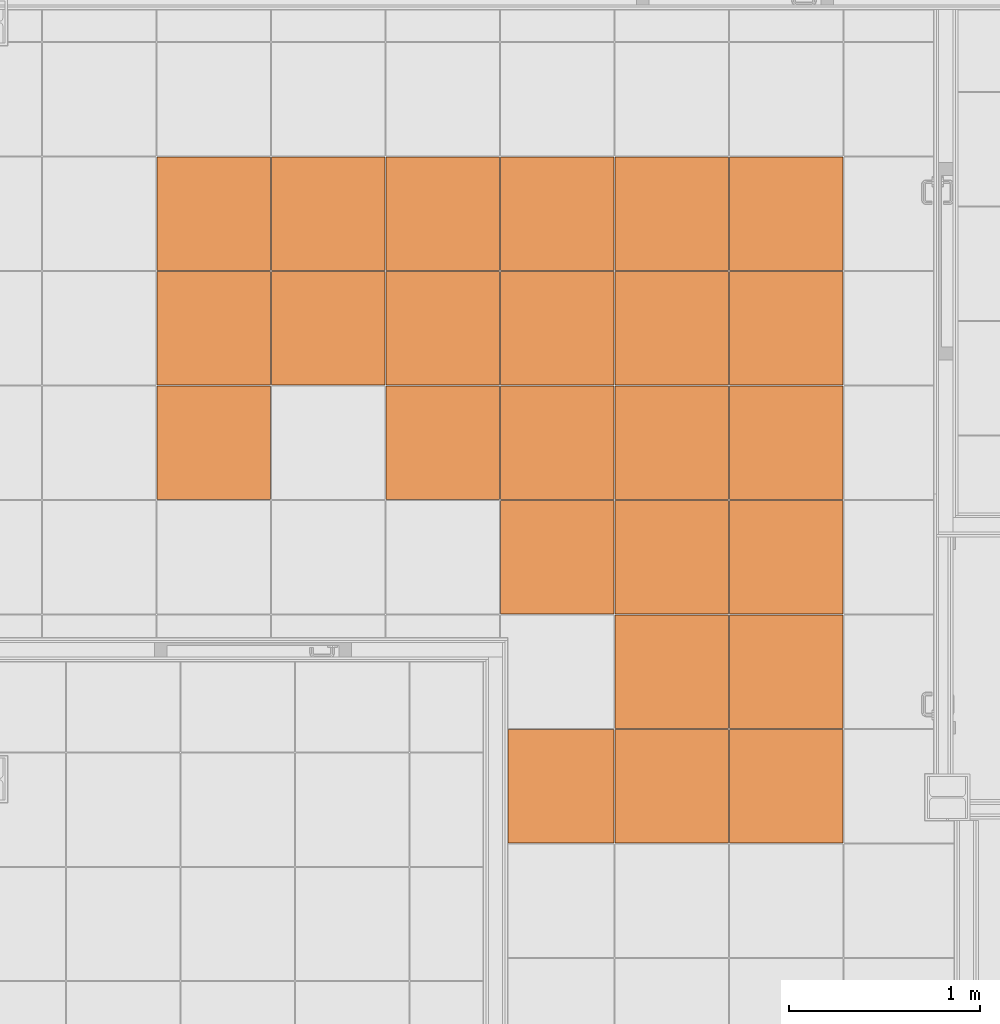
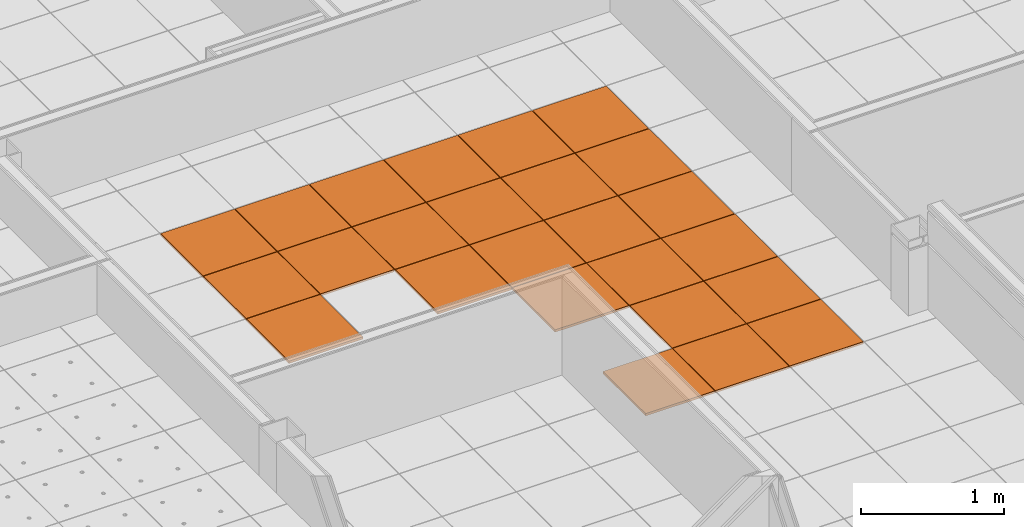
# One storey, part 281 of 338: 25 proxies, 1 element without a shape of its own.
"""IFC2X3 building model written with IfcOpenShell, lengths in millimetres."""

from ifc_helpers import new_model, entity, si_unit, converted_unit, derived_unit, money_unit, direction, frame, origin_with_axes, place, context, subcontext, project, spatial, faceted_brep, source, transform, mapped, material, type_object, type_shapes, element, aggregate, save


model = new_model("IFC2X3")

# Units and contexts
model_context = context("Model", 3, precision=0.01, world=origin_with_axes(), true_north=direction((0.0, 1.0)))
plan_context = context("Plan", 3, precision=0.01, world=origin_with_axes(), true_north=direction((0.0, 1.0)))
body_context = subcontext(model_context, "Body", "Model", "MODEL_VIEW")
ifc_project = project(units=[si_unit("LENGTHUNIT", "METRE", prefix="MILLI"), si_unit("AREAUNIT", "SQUARE_METRE"), si_unit("VOLUMEUNIT", "CUBIC_METRE"), converted_unit("PLANEANGLEUNIT", "DEGREE", entity("IfcPlaneAngleMeasure", 0.0174532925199), si_unit("PLANEANGLEUNIT", "RADIAN"), dimensions=[0, 0, 0, 0, 0, 0, 0]), money_unit("EUR"), converted_unit("TIMEUNIT", "Year", entity("IfcTimeMeasure", 31556926.0), si_unit("TIMEUNIT", "SECOND"), dimensions=[0, 0, 1, 0, 0, 0, 0]), si_unit("MASSUNIT", "GRAM", prefix="KILO"), si_unit("THERMODYNAMICTEMPERATUREUNIT", "DEGREE_CELSIUS"), si_unit("LUMINOUSINTENSITYUNIT", "LUMEN"), si_unit("ENERGYUNIT", "JOULE", prefix="MEGA"), derived_unit("THERMALCONDUCTANCEUNIT", [(si_unit("POWERUNIT", "WATT"), 1), (si_unit("LENGTHUNIT", "METRE"), -1), (si_unit("THERMODYNAMICTEMPERATUREUNIT", "KELVIN"), -1)]), derived_unit("SPECIFICHEATCAPACITYUNIT", [(si_unit("ENERGYUNIT", "JOULE"), 1), (si_unit("MASSUNIT", "GRAM", prefix="KILO"), -1), (si_unit("THERMODYNAMICTEMPERATUREUNIT", "KELVIN"), -1)]), derived_unit("MASSDENSITYUNIT", [(si_unit("MASSUNIT", "GRAM", prefix="KILO"), 1), (si_unit("VOLUMEUNIT", "CUBIC_METRE"), -1)])], contexts=[model_context, plan_context])

# Site, building, storey
site_placement = place(None, origin_with_axes())
site = spatial("IfcSite", under=ifc_project, at=site_placement, Name="Fortuinstraat Woensdrecht", CompositionType="ELEMENT")
building_placement = place(site_placement, origin_with_axes())
building = spatial("IfcBuilding", under=site, at=building_placement, Name="IKC Fortuna", CompositionType="ELEMENT")
storey_placement = place(building_placement, origin_with_axes())
storey = spatial("IfcBuildingStorey", under=building, at=storey_placement, Name="00 begane grond", CompositionType="ELEMENT", Elevation=0.0)

# Covering, proxies
covering_type = type_object("IfcCoveringType", Name="Curtain Wall Type", PredefinedType="CEILING")
covering_placement = place(storey_placement, frame((21169.4446171, 27661.0834994, 3010.0), z_axis=(0.0, 0.0, 1.0), x_axis=(1.0, 0.0, 0.0)))
covering = element("IfcCovering", 1, at=covering_placement, inside=storey, type_object=covering_type, Name="45_Plafondafwerking_P04", PredefinedType="CEILING")
ifc_material = material(Name="Gipsplaat")
building_element_proxy_type_1 = type_object("IfcBuildingElementProxyType", Name="Distinct Panel 600 x 600 x 20", PredefinedType="NOTDEFINED")
shared_shape_1 = source(origin_with_axes(), body_context, "Body", "Brep", [
    faceted_brep([(-2.49999999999, 2.5, -10.0), (-2.49999999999, 2.5, 10.0), (-597.5, 2.49999999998, 10.0), (-597.5, 2.49999999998, -10.0), (-2.50000000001, 597.5, -10.0), (-2.50000000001, 597.5, 10.0), (-597.5, 597.5, 10.0), (-597.5, 597.5, -10.0)], [[[0, 1, 2, 3]], [[4, 5, 1, 0]], [[1, 5, 6, 2]], [[3, 2, 6, 7]], [[0, 3, 7, 4]], [[7, 6, 5, 4]]]),
])
proxy_1_placement = place(covering_placement, frame((3600.0, -2400.0, 1.36335387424e-10), z_axis=(0.0, 0.0, 1.0), x_axis=(1.0, 0.0, 0.0)))
proxy_1 = element("IfcBuildingElementProxy", 2, at=proxy_1_placement, type_object=building_element_proxy_type_1, material=ifc_material, Name="__Panel-D", context=body_context, shape_type="MappedRepresentation", body=[
    mapped(shared_shape_1, transform((-300.0, 300.0, 0.0), x_axis=(-1.0, 0.0, 0.0), y_axis=(0.0, -1.0, 0.0), z_axis=(0.0, 0.0, 1.0))),
])
proxy_2_placement = place(covering_placement, frame((3600.0, -1800.0, 1.36335387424e-10), z_axis=(0.0, 0.0, 1.0), x_axis=(1.0, 0.0, 0.0)))
proxy_2 = element("IfcBuildingElementProxy", 3, at=proxy_2_placement, type_object=building_element_proxy_type_1, material=ifc_material, Name="__Panel-D", context=body_context, shape_type="MappedRepresentation", body=[
    mapped(shared_shape_1, transform((-300.0, 300.0, 0.0), x_axis=(-1.0, 0.0, 0.0), y_axis=(0.0, -1.0, 0.0), z_axis=(0.0, 0.0, 1.0))),
])
proxy_3_placement = place(covering_placement, frame((3600.0, -1200.0, 1.36335387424e-10), z_axis=(0.0, 0.0, 1.0), x_axis=(1.0, 0.0, 0.0)))
proxy_3 = element("IfcBuildingElementProxy", 4, at=proxy_3_placement, type_object=building_element_proxy_type_1, material=ifc_material, Name="__Panel-D", context=body_context, shape_type="MappedRepresentation", body=[
    mapped(shared_shape_1, transform((-300.0, 300.0, 0.0), x_axis=(-1.0, 0.0, 0.0), y_axis=(0.0, -1.0, 0.0), z_axis=(0.0, 0.0, 1.0))),
])
proxy_4_placement = place(covering_placement, frame((3600.0, -600.0, 1.36335387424e-10), z_axis=(0.0, 0.0, 1.0), x_axis=(1.0, 0.0, 0.0)))
proxy_4 = element("IfcBuildingElementProxy", 5, at=proxy_4_placement, type_object=building_element_proxy_type_1, material=ifc_material, Name="__Panel-D", context=body_context, shape_type="MappedRepresentation", body=[
    mapped(shared_shape_1, transform((-300.0, 300.0, 0.0), x_axis=(-1.0, 0.0, 0.0), y_axis=(0.0, -1.0, 0.0), z_axis=(0.0, 0.0, 1.0))),
])
proxy_5_placement = place(covering_placement, frame((3000.0, -2400.0, 1.16795462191e-10), z_axis=(0.0, 0.0, 1.0), x_axis=(1.0, 0.0, 0.0)))
proxy_5 = element("IfcBuildingElementProxy", 6, at=proxy_5_placement, type_object=building_element_proxy_type_1, material=ifc_material, Name="__Panel-D", context=body_context, shape_type="MappedRepresentation", body=[
    mapped(shared_shape_1, transform((-300.0, 300.0, 0.0), x_axis=(-1.0, 0.0, 0.0), y_axis=(0.0, -1.0, 0.0), z_axis=(0.0, 0.0, 1.0))),
])
proxy_6_placement = place(covering_placement, frame((3000.0, -1800.0, 1.16795462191e-10), z_axis=(0.0, 0.0, 1.0), x_axis=(1.0, 0.0, 0.0)))
proxy_6 = element("IfcBuildingElementProxy", 7, at=proxy_6_placement, type_object=building_element_proxy_type_1, material=ifc_material, Name="__Panel-D", context=body_context, shape_type="MappedRepresentation", body=[
    mapped(shared_shape_1, transform((-300.0, 300.0, 0.0), x_axis=(-1.0, 0.0, 0.0), y_axis=(0.0, -1.0, 0.0), z_axis=(0.0, 0.0, 1.0))),
])
proxy_7_placement = place(covering_placement, frame((3000.0, -1200.0, 1.16795462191e-10), z_axis=(0.0, 0.0, 1.0), x_axis=(1.0, 0.0, 0.0)))
proxy_7 = element("IfcBuildingElementProxy", 8, at=proxy_7_placement, type_object=building_element_proxy_type_1, material=ifc_material, Name="__Panel-D", context=body_context, shape_type="MappedRepresentation", body=[
    mapped(shared_shape_1, transform((-300.0, 300.0, 0.0), x_axis=(-1.0, 0.0, 0.0), y_axis=(0.0, -1.0, 0.0), z_axis=(0.0, 0.0, 1.0))),
])
proxy_8_placement = place(covering_placement, frame((3000.0, -600.0, 1.16795462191e-10), z_axis=(0.0, 0.0, 1.0), x_axis=(1.0, 0.0, 0.0)))
proxy_8 = element("IfcBuildingElementProxy", 9, at=proxy_8_placement, type_object=building_element_proxy_type_1, material=ifc_material, Name="__Panel-D", context=body_context, shape_type="MappedRepresentation", body=[
    mapped(shared_shape_1, transform((-300.0, 300.0, 0.0), x_axis=(-1.0, 0.0, 0.0), y_axis=(0.0, -1.0, 0.0), z_axis=(0.0, 0.0, 1.0))),
])
proxy_9_placement = place(covering_placement, frame((3600.0, -3000.0, 1.36335387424e-10), z_axis=(0.0, 0.0, 1.0), x_axis=(1.0, 0.0, 0.0)))
proxy_9 = element("IfcBuildingElementProxy", 10, at=proxy_9_placement, type_object=building_element_proxy_type_1, material=ifc_material, Name="__Panel-D", context=body_context, shape_type="MappedRepresentation", body=[
    mapped(shared_shape_1, transform((-300.0, 300.0, 0.0), x_axis=(-1.0, 0.0, 0.0), y_axis=(0.0, -1.0, 0.0), z_axis=(0.0, 0.0, 1.0))),
])
proxy_10_placement = place(covering_placement, frame((2400.0, -2400.0, 0.0), z_axis=(0.0, 0.0, 1.0), x_axis=(1.0, 0.0, 0.0)))
proxy_10 = element("IfcBuildingElementProxy", 11, at=proxy_10_placement, type_object=building_element_proxy_type_1, material=ifc_material, Name="__Panel-D", context=body_context, shape_type="MappedRepresentation", body=[
    mapped(shared_shape_1, transform((-300.0, 300.0, 0.0), x_axis=(-1.0, 0.0, 0.0), y_axis=(0.0, -1.0, 0.0), z_axis=(0.0, 0.0, 1.0))),
])
proxy_11_placement = place(covering_placement, frame((2400.0, -1800.0, 0.0), z_axis=(0.0, 0.0, 1.0), x_axis=(1.0, 0.0, 0.0)))
proxy_11 = element("IfcBuildingElementProxy", 12, at=proxy_11_placement, type_object=building_element_proxy_type_1, material=ifc_material, Name="__Panel-D", context=body_context, shape_type="MappedRepresentation", body=[
    mapped(shared_shape_1, transform((-300.0, 300.0, 0.0), x_axis=(-1.0, 0.0, 0.0), y_axis=(0.0, -1.0, 0.0), z_axis=(0.0, 0.0, 1.0))),
])
proxy_12_placement = place(covering_placement, frame((2400.0, -1200.0, 0.0), z_axis=(0.0, 0.0, 1.0), x_axis=(1.0, 0.0, 0.0)))
proxy_12 = element("IfcBuildingElementProxy", 13, at=proxy_12_placement, type_object=building_element_proxy_type_1, material=ifc_material, Name="__Panel-D", context=body_context, shape_type="MappedRepresentation", body=[
    mapped(shared_shape_1, transform((-300.0, 300.0, 0.0), x_axis=(-1.0, 0.0, 0.0), y_axis=(0.0, -1.0, 0.0), z_axis=(0.0, 0.0, 1.0))),
])
proxy_13_placement = place(covering_placement, frame((2400.0, -600.0, 0.0), z_axis=(0.0, 0.0, 1.0), x_axis=(1.0, 0.0, 0.0)))
proxy_13 = element("IfcBuildingElementProxy", 14, at=proxy_13_placement, type_object=building_element_proxy_type_1, material=ifc_material, Name="__Panel-D", context=body_context, shape_type="MappedRepresentation", body=[
    mapped(shared_shape_1, transform((-300.0, 300.0, 0.0), x_axis=(-1.0, 0.0, 0.0), y_axis=(0.0, -1.0, 0.0), z_axis=(0.0, 0.0, 1.0))),
])
proxy_14_placement = place(covering_placement, frame((3000.0, -3000.0, 1.16795462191e-10), z_axis=(0.0, 0.0, 1.0), x_axis=(1.0, 0.0, 0.0)))
proxy_14 = element("IfcBuildingElementProxy", 15, at=proxy_14_placement, type_object=building_element_proxy_type_1, material=ifc_material, Name="__Panel-D", context=body_context, shape_type="MappedRepresentation", body=[
    mapped(shared_shape_1, transform((-300.0, 300.0, 0.0), x_axis=(-1.0, 0.0, 0.0), y_axis=(0.0, -1.0, 0.0), z_axis=(0.0, 0.0, 1.0))),
])
proxy_15_placement = place(covering_placement, frame((1800.0, -1800.0, 0.0), z_axis=(0.0, 0.0, 1.0), x_axis=(1.0, 0.0, 0.0)))
proxy_15 = element("IfcBuildingElementProxy", 16, at=proxy_15_placement, type_object=building_element_proxy_type_1, material=ifc_material, Name="__Panel-D", context=body_context, shape_type="MappedRepresentation", body=[
    mapped(shared_shape_1, transform((-300.0, 300.0, 0.0), x_axis=(-1.0, 0.0, 0.0), y_axis=(0.0, -1.0, 0.0), z_axis=(0.0, 0.0, 1.0))),
])
proxy_16_placement = place(covering_placement, frame((1800.0, -1200.0, 0.0), z_axis=(0.0, 0.0, 1.0), x_axis=(1.0, 0.0, 0.0)))
proxy_16 = element("IfcBuildingElementProxy", 17, at=proxy_16_placement, type_object=building_element_proxy_type_1, material=ifc_material, Name="__Panel-D", context=body_context, shape_type="MappedRepresentation", body=[
    mapped(shared_shape_1, transform((-300.0, 300.0, 0.0), x_axis=(-1.0, 0.0, 0.0), y_axis=(0.0, -1.0, 0.0), z_axis=(0.0, 0.0, 1.0))),
])
proxy_17_placement = place(covering_placement, frame((1800.0, -600.0, 0.0), z_axis=(0.0, 0.0, 1.0), x_axis=(1.0, 0.0, 0.0)))
proxy_17 = element("IfcBuildingElementProxy", 18, at=proxy_17_placement, type_object=building_element_proxy_type_1, material=ifc_material, Name="__Panel-D", context=body_context, shape_type="MappedRepresentation", body=[
    mapped(shared_shape_1, transform((-300.0, 300.0, 0.0), x_axis=(-1.0, 0.0, 0.0), y_axis=(0.0, -1.0, 0.0), z_axis=(0.0, 0.0, 1.0))),
])
proxy_18_placement = place(covering_placement, frame((3000.0, -3600.0, 1.16795462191e-10), z_axis=(0.0, 0.0, 1.0), x_axis=(1.0, 0.0, 0.0)))
proxy_18 = element("IfcBuildingElementProxy", 19, at=proxy_18_placement, type_object=building_element_proxy_type_1, material=ifc_material, Name="__Panel-D", context=body_context, shape_type="MappedRepresentation", body=[
    mapped(shared_shape_1, transform((-300.0, 300.0, 0.0), x_axis=(-1.0, 0.0, 0.0), y_axis=(0.0, -1.0, 0.0), z_axis=(0.0, 0.0, 1.0))),
])
proxy_19_placement = place(covering_placement, frame((3600.0, -3600.0, 1.36335387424e-10), z_axis=(0.0, 0.0, 1.0), x_axis=(1.0, 0.0, 0.0)))
proxy_19 = element("IfcBuildingElementProxy", 20, at=proxy_19_placement, type_object=building_element_proxy_type_1, material=ifc_material, Name="__Panel-D", context=body_context, shape_type="MappedRepresentation", body=[
    mapped(shared_shape_1, transform((-300.0, 300.0, 0.0), x_axis=(-1.0, 0.0, 0.0), y_axis=(0.0, -1.0, 0.0), z_axis=(0.0, 0.0, 1.0))),
])
shared_shape_2 = source(origin_with_axes(), body_context, "Body", "Brep", [
    faceted_brep([(-2.50000188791, 2.50000518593, -10.0), (-2.50000188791, 2.50000518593, 10.0), (-597.499994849, 2.50000192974, 10.0), (-597.499994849, 2.50000192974, -10.0), (-2.50000514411, 597.499998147, -10.0), (-2.50000514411, 597.499998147, 10.0), (-597.499998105, 597.499994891, 10.0), (-597.499998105, 597.499994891, -10.0)], [[[0, 1, 2, 3]], [[4, 5, 1, 0]], [[1, 5, 6, 2]], [[3, 2, 6, 7]], [[0, 3, 7, 4]], [[7, 6, 5, 4]]]),
])
proxy_20_placement = place(covering_placement, frame((1200.0, -600.0, 0.0), z_axis=(0.0, 0.0, 1.0), x_axis=(1.0, 0.0, 0.0)))
proxy_20 = element("IfcBuildingElementProxy", 21, at=proxy_20_placement, type_object=building_element_proxy_type_1, material=ifc_material, Name="__Panel-D", context=body_context, shape_type="MappedRepresentation", body=[
    mapped(shared_shape_2, transform((-300.0, 300.0, 0.0), x_axis=(-1.0, 0.0, 0.0), y_axis=(0.0, -1.0, 0.0), z_axis=(0.0, 0.0, 1.0))),
])
proxy_21_placement = place(covering_placement, frame((1200.0, -1200.0, 0.0), z_axis=(0.0, 0.0, 1.0), x_axis=(1.0, 0.0, 0.0)))
proxy_21 = element("IfcBuildingElementProxy", 22, at=proxy_21_placement, type_object=building_element_proxy_type_1, material=ifc_material, Name="__Panel-D", context=body_context, shape_type="MappedRepresentation", body=[
    mapped(shared_shape_2, transform((-300.0, 300.0, 0.0), x_axis=(-1.0, 0.0, 0.0), y_axis=(0.0, -1.0, 0.0), z_axis=(0.0, 0.0, 1.0))),
])
shared_shape_3 = source(origin_with_axes(), body_context, "Body", "Brep", [
    faceted_brep([(-2.5000069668, 2.4999963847, -10.0), (-2.5000069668, 2.4999963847, 10.0), (-597.499995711, 2.50000275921, 10.0), (-597.499995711, 2.50000275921, -10.0), (-2.50000214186, 597.499967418, -10.0), (-2.50000214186, 597.499967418, 10.0), (-597.499990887, 597.499973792, 10.0), (-597.499990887, 597.499973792, -10.0)], [[[0, 1, 2, 3]], [[4, 5, 1, 0]], [[1, 5, 6, 2]], [[3, 2, 6, 7]], [[0, 3, 7, 4]], [[7, 6, 5, 4]]]),
])
type_shapes(building_element_proxy_type_1, [shared_shape_1, shared_shape_2, shared_shape_3])
proxy_22_placement = place(covering_placement, frame((600.0, -1200.0, 0.0), z_axis=(0.0, 0.0, 1.0), x_axis=(1.0, 0.0, 0.0)))
proxy_22 = element("IfcBuildingElementProxy", 23, at=proxy_22_placement, type_object=building_element_proxy_type_1, material=ifc_material, Name="__Panel-D", context=body_context, shape_type="MappedRepresentation", body=[
    mapped(shared_shape_3, transform((-300.0, 300.0, 0.0), x_axis=(-1.0, 0.0, 0.0), y_axis=(0.0, -1.0, 0.0), z_axis=(0.0, 0.0, 1.0))),
])
proxy_23_placement = place(covering_placement, frame((600.0, -600.0, 0.0), z_axis=(0.0, 0.0, 1.0), x_axis=(1.0, 0.0, 0.0)))
proxy_23 = element("IfcBuildingElementProxy", 24, at=proxy_23_placement, type_object=building_element_proxy_type_1, material=ifc_material, Name="__Panel-D", context=body_context, shape_type="MappedRepresentation", body=[
    mapped(shared_shape_3, transform((-300.0, 300.0, 0.0), x_axis=(-1.0, 0.0, 0.0), y_axis=(0.0, -1.0, 0.0), z_axis=(0.0, 0.0, 1.0))),
])
proxy_24_placement = place(covering_placement, frame((600.0, -1800.0, 0.0), z_axis=(0.0, 0.0, 1.0), x_axis=(1.0, 0.0, 0.0)))
proxy_24 = element("IfcBuildingElementProxy", 25, at=proxy_24_placement, type_object=building_element_proxy_type_1, material=ifc_material, Name="__Panel-D", context=body_context, shape_type="MappedRepresentation", body=[
    mapped(shared_shape_3, transform((-300.0, 300.0, 0.0), x_axis=(-1.0, 0.0, 0.0), y_axis=(0.0, -1.0, 0.0), z_axis=(0.0, 0.0, 1.0))),
])
building_element_proxy_type_2 = type_object("IfcBuildingElementProxyType", Name="Distinct Panel 562 x 600 x 20", PredefinedType="NOTDEFINED")
shared_shape_4 = source(origin_with_axes(), body_context, "Body", "Brep", [
    faceted_brep([(-40.990352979, 2.5, -10.0), (-40.990352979, 2.5, 10.0), (-597.5, 2.49999999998, 10.0), (-597.5, 2.49999999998, -10.0), (-40.990352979, 597.5, -10.0), (-40.990352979, 597.5, 10.0), (-597.5, 597.5, 10.0), (-597.5, 597.5, -10.0)], [[[0, 1, 2, 3]], [[4, 5, 1, 0]], [[1, 5, 6, 2]], [[3, 2, 6, 7]], [[0, 3, 7, 4]], [[7, 6, 5, 4]]]),
])
type_shapes(building_element_proxy_type_2, [shared_shape_4])
proxy_25_placement = place(covering_placement, frame((2419.24517739, -3600.0, 0.0), z_axis=(0.0, 0.0, 1.0), x_axis=(1.0, 0.0, 0.0)))
proxy_25 = element("IfcBuildingElementProxy", 26, at=proxy_25_placement, type_object=building_element_proxy_type_2, material=ifc_material, Name="__Panel-D", context=body_context, shape_type="MappedRepresentation", body=[
    mapped(shared_shape_4, transform((-319.245177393, 300.0, 0.0), x_axis=(-1.0, 0.0, 0.0), y_axis=(0.0, -1.0, 0.0), z_axis=(0.0, 0.0, 1.0))),
])
aggregate(covering, [proxy_1, proxy_2, proxy_3, proxy_4, proxy_5, proxy_6, proxy_7, proxy_8, proxy_20, proxy_9, proxy_10, proxy_11, proxy_12, proxy_13, proxy_22, proxy_14, proxy_15, proxy_16, proxy_17, proxy_21, proxy_25, proxy_23, proxy_24, proxy_18, proxy_19])

save(model, "model.ifc")
